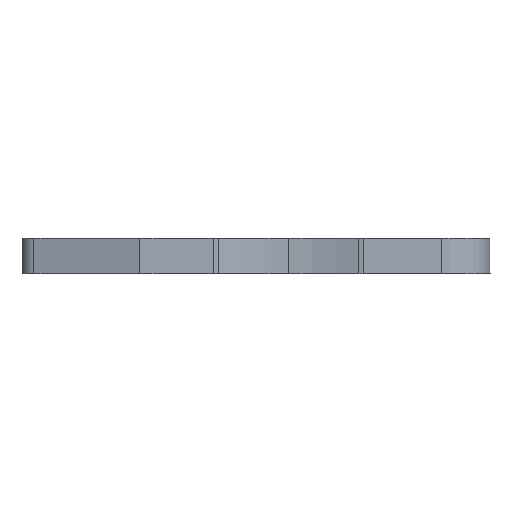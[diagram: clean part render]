
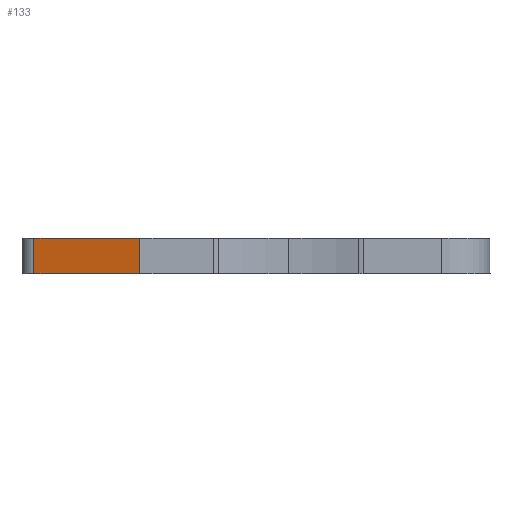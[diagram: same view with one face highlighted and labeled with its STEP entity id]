
A CAD part, front view. The second image highlights one B-rep face of the part: STEP entity #133.
In plain terms, the highlighted planar face has unit normal (-0.259, -0.966, 0).
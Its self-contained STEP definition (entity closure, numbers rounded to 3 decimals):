
#75=CARTESIAN_POINT('',(-35.092,-37.738,3.731));
#76=VERTEX_POINT('',#75);
#77=CARTESIAN_POINT('',(-35.092,-37.738,5.931));
#78=VERTEX_POINT('',#77);
#79=CARTESIAN_POINT('',(-35.092,-37.738,3.731));
#80=DIRECTION('',(0.,0.,1.));
#81=VECTOR('',#80,2.2);
#82=LINE('',#79,#81);
#83=EDGE_CURVE('',#76,#78,#82,.T.);
#103=CARTESIAN_POINT('',(-31.805,-38.619,4.831));
#104=DIRECTION('',(0.966,-0.259,0.));
#105=DIRECTION('',(-0.259,-0.966,0.));
#106=AXIS2_PLACEMENT_3D('',#103,#105,#104);
#107=PLANE('',#106);
#108=ORIENTED_EDGE('',*,*,#83,.F.);
#109=CARTESIAN_POINT('',(-28.518,-39.5,3.731));
#110=VERTEX_POINT('',#109);
#111=CARTESIAN_POINT('',(-35.092,-37.738,3.731));
#112=DIRECTION('',(0.966,-0.259,0.));
#113=VECTOR('',#112,6.806);
#114=LINE('',#111,#113);
#115=EDGE_CURVE('',#76,#110,#114,.T.);
#116=ORIENTED_EDGE('',*,*,#115,.T.);
#117=CARTESIAN_POINT('',(-28.518,-39.5,5.931));
#118=VERTEX_POINT('',#117);
#119=CARTESIAN_POINT('',(-28.518,-39.5,3.731));
#120=DIRECTION('',(0.,0.,1.));
#121=VECTOR('',#120,2.2);
#122=LINE('',#119,#121);
#123=EDGE_CURVE('',#110,#118,#122,.T.);
#124=ORIENTED_EDGE('',*,*,#123,.T.);
#125=CARTESIAN_POINT('',(-28.518,-39.5,5.931));
#126=DIRECTION('',(-0.966,0.259,0.));
#127=VECTOR('',#126,6.806);
#128=LINE('',#125,#127);
#129=EDGE_CURVE('',#118,#78,#128,.T.);
#130=ORIENTED_EDGE('',*,*,#129,.T.);
#131=EDGE_LOOP('',(#108,#116,#124,#130));
#132=FACE_OUTER_BOUND('',#131,.T.);
#133=ADVANCED_FACE('',(#132),#107,.T.);
